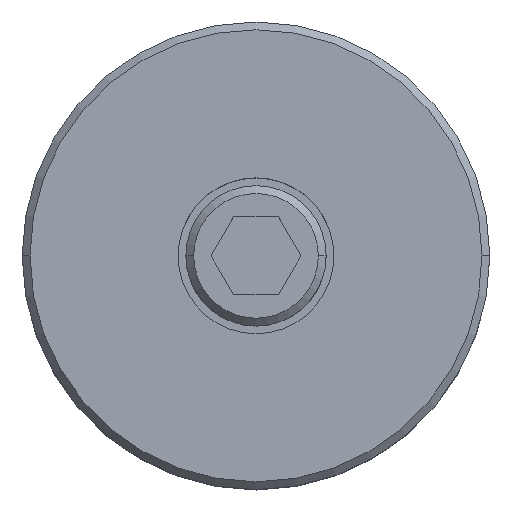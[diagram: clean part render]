
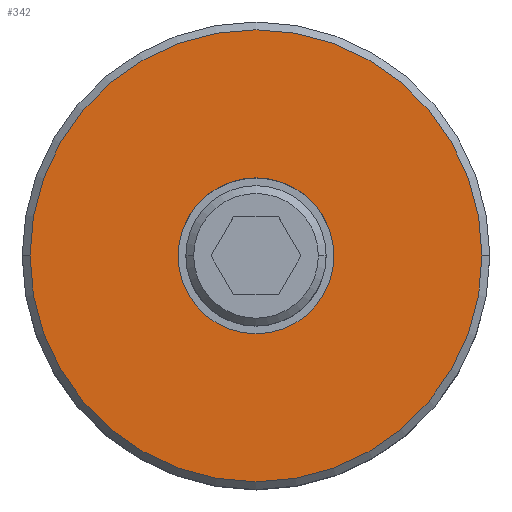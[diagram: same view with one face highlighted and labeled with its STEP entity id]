
A CAD part, top view. The second image highlights one B-rep face of the part: STEP entity #342.
In plain terms, the highlighted planar face has unit normal (0, 0, 1).
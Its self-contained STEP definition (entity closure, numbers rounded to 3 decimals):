
#101=VERTEX_POINT(' ',#102);
#102=CARTESIAN_POINT('',(-10.,0.,30.));
#103=VERTEX_POINT(' ',#104);
#104=CARTESIAN_POINT('',(10.,0.,30.));
#105=VERTEX_POINT(' ',#106);
#106=CARTESIAN_POINT('',(-29.,0.,30.));
#107=VERTEX_POINT(' ',#108);
#108=CARTESIAN_POINT('',(29.,0.,30.));
#172=CIRCLE('',#173,10.);
#173=AXIS2_PLACEMENT_3D('',#174,#175,#176);
#174=CARTESIAN_POINT('',(0.,0.,30.));
#175=DIRECTION('',(0.,0.,-1.));
#176=DIRECTION('',(0.,1.,0.));
#177=EDGE_CURVE(' ',#103,#101,#172,.T.);
#183=CIRCLE('',#184,10.);
#184=AXIS2_PLACEMENT_3D('',#185,#186,#187);
#185=CARTESIAN_POINT('',(0.,0.,30.));
#186=DIRECTION('',(0.,0.,-1.));
#187=DIRECTION('',(0.,-1.,0.));
#188=EDGE_CURVE(' ',#101,#103,#183,.T.);
#189=CIRCLE('',#190,29.);
#190=AXIS2_PLACEMENT_3D('',#191,#192,#193);
#191=CARTESIAN_POINT('',(0.,0.,30.));
#192=DIRECTION('',(0.,0.,-1.));
#193=DIRECTION('',(0.,1.,0.));
#194=EDGE_CURVE(' ',#107,#105,#189,.T.);
#195=CIRCLE('',#196,29.);
#196=AXIS2_PLACEMENT_3D('',#197,#198,#199);
#197=CARTESIAN_POINT('',(0.,0.,30.));
#198=DIRECTION('',(0.,0.,-1.));
#199=DIRECTION('',(0.,-1.,0.));
#200=EDGE_CURVE(' ',#105,#107,#195,.T.);
#329=ORIENTED_EDGE('',*,*,#194,.F.);
#330=ORIENTED_EDGE('',*,*,#200,.F.);
#331=EDGE_LOOP('',(#329,#330));
#332=FACE_OUTER_BOUND('',#331,.T.);
#333=ORIENTED_EDGE('',*,*,#188,.T.);
#334=ORIENTED_EDGE('',*,*,#177,.T.);
#335=EDGE_LOOP('',(#333,#334));
#336=FACE_BOUND('',#335,.T.);
#337=PLANE('',#338);
#338=AXIS2_PLACEMENT_3D('',#339,#340,#341);
#339=CARTESIAN_POINT('',(0.,0.,30.));
#340=DIRECTION('',(0.,0.,1.));
#341=DIRECTION('',(0.,1.,0.));
#342=ADVANCED_FACE('',(#332,#336),#337,.T.);
